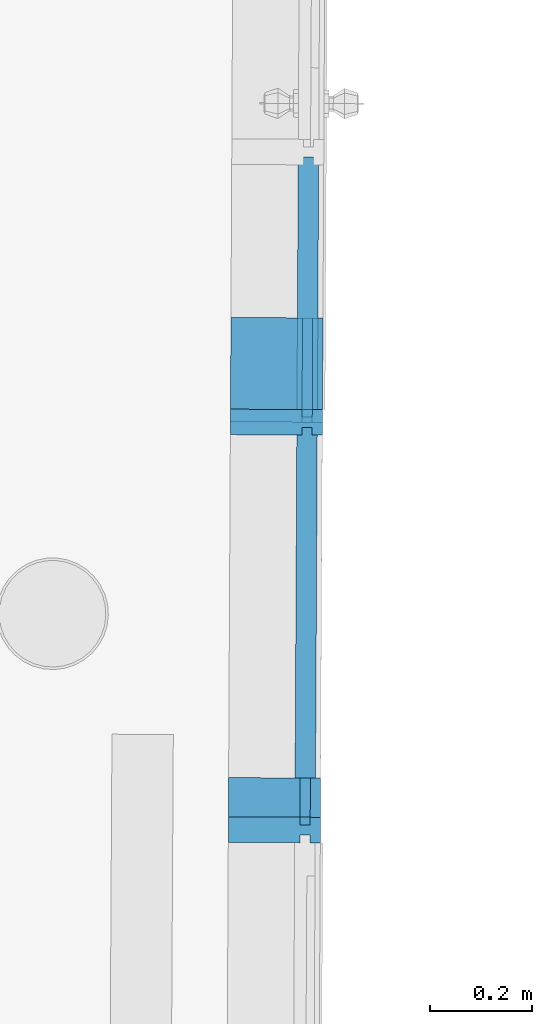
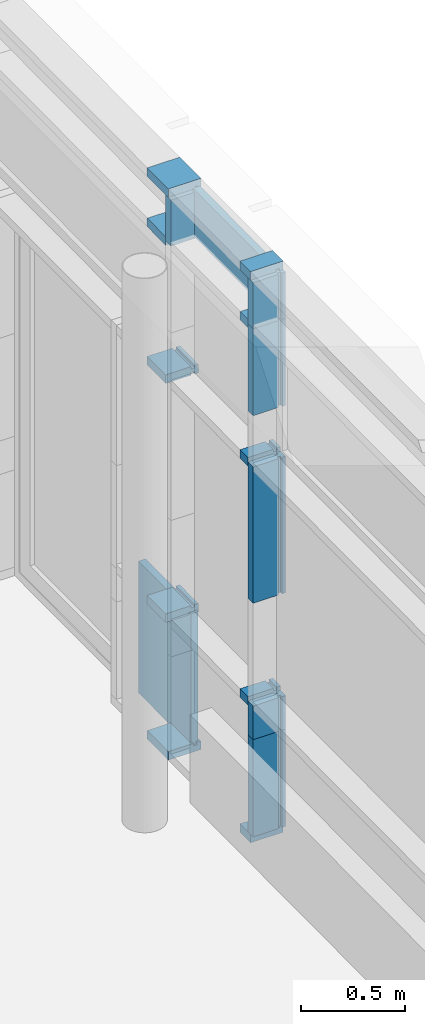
# One storey, part 179 of 196: 18 building element parts, 1 element without a shape of its own.
"""IFC2X3 building model written with IfcOpenShell, lengths in metres."""

from ifc_helpers import new_model, entity, si_unit, converted_unit, derived_unit, money_unit, direction, frame, origin_with_axes, place, context, subcontext, project, spatial, faceted_brep, material, type_object, element, aggregate, save


model = new_model("IFC2X3")

# Units and contexts
model_context = context("Model", 3, precision=1e-05, world=origin_with_axes(), true_north=direction((0.0, 1.0)))
body_context = subcontext(model_context, "Body", "Model", "MODEL_VIEW")
ifc_project = project(units=[si_unit("LENGTHUNIT", "METRE"), si_unit("AREAUNIT", "SQUARE_METRE"), si_unit("VOLUMEUNIT", "CUBIC_METRE"), converted_unit("PLANEANGLEUNIT", "DEGREE", entity("IfcPlaneAngleMeasure", 0.0174532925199), si_unit("PLANEANGLEUNIT", "RADIAN"), dimensions=[0, 0, 0, 0, 0, 0, 0]), money_unit("EUR"), converted_unit("TIMEUNIT", "Year", entity("IfcTimeMeasure", 31556926.0), si_unit("TIMEUNIT", "SECOND"), dimensions=[0, 0, 1, 0, 0, 0, 0]), si_unit("MASSUNIT", "GRAM", prefix="KILO"), si_unit("THERMODYNAMICTEMPERATUREUNIT", "DEGREE_CELSIUS"), si_unit("LUMINOUSINTENSITYUNIT", "LUMEN"), si_unit("ENERGYUNIT", "JOULE", prefix="MEGA"), derived_unit("THERMALCONDUCTANCEUNIT", [(si_unit("POWERUNIT", "WATT"), 1), (si_unit("LENGTHUNIT", "METRE"), -1), (si_unit("THERMODYNAMICTEMPERATUREUNIT", "KELVIN"), -1)]), derived_unit("SPECIFICHEATCAPACITYUNIT", [(si_unit("ENERGYUNIT", "JOULE"), 1), (si_unit("MASSUNIT", "GRAM", prefix="KILO"), -1), (si_unit("THERMODYNAMICTEMPERATUREUNIT", "KELVIN"), -1)]), derived_unit("MASSDENSITYUNIT", [(si_unit("MASSUNIT", "GRAM", prefix="KILO"), 1), (si_unit("VOLUMEUNIT", "CUBIC_METRE"), -1)])], contexts=[model_context])

# Site, building, storey
site_placement = place(None, origin_with_axes())
site = spatial("IfcSite", under=ifc_project, at=site_placement, Name="Gelände", CompositionType="ELEMENT")
building_placement = place(site_placement, origin_with_axes())
building = spatial("IfcBuilding", under=site, at=building_placement, Name="Gebäude", CompositionType="ELEMENT")
storey_placement = place(building_placement, frame((0.0, 0.0, -3.0), z_axis=(0.0, 0.0, 1.0), x_axis=(1.0, 0.0, 0.0)))
storey = spatial("IfcBuildingStorey", under=building, at=storey_placement, Name="KELLERGESCHOSS", CompositionType="ELEMENT", Elevation=-3.0)

# Proxy, building element parts
building_element_proxy_type = type_object("IfcBuildingElementProxyType", Name="Fassadentyp", PredefinedType="NOTDEFINED")
proxy_placement = place(storey_placement, frame((9.16160365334, 37.7476945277, 0.610000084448), z_axis=(0.0, 0.0, 1.0), x_axis=(1.0, 0.0, 0.0)))
proxy = element("IfcBuildingElementProxy", 1, at=proxy_placement, inside=storey, type_object=building_element_proxy_type, Name="Fassade-002")
ifc_material_1 = material(Name="45_Glas, Normalglas")
building_element_part_1_placement = place(proxy_placement, origin_with_axes())
building_element_part_1 = element("IfcBuildingElementPart", 2, at=building_element_part_1_placement, material=ifc_material_1, Name="45_Glas, Normalglas", context=body_context, shape_type="Brep", body=[
    faceted_brep([(-0.0103494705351, 1.90381784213, 3.31499994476), (-0.0138251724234, 1.21816353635, 3.31499994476), (0.0261743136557, 1.21796077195, 3.31499994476), (0.029650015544, 1.90361507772, 3.31499994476), (-0.0103494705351, 1.90381784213, 3.03949642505), (-0.0138251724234, 1.21816353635, 3.03949642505), (-0.0142902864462, 1.12641014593, 3.03949641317), (-0.0142902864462, 1.12641014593, 3.31499994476), (0.0257091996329, 1.12620738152, 3.31499994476), (0.0257091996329, 1.12620738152, 3.03949641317), (0.0261743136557, 1.21796077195, 3.03949642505), (0.029650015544, 1.90361507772, 3.03949642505)], [[[0, 1, 2, 3]], [[0, 4, 5, 6, 7, 1]], [[1, 7, 8, 2]], [[3, 2, 8, 9, 10, 11]], [[4, 0, 3, 11]], [[5, 4, 11, 10]], [[6, 5, 10, 9]], [[7, 6, 9, 8]]]),
])
building_element_part_2_placement = place(proxy_placement, origin_with_axes())
building_element_part_2 = element("IfcBuildingElementPart", 3, at=building_element_part_2_placement, material=ifc_material_1, Name="45_Glas, Normalglas", context=body_context, shape_type="Brep", body=[
    faceted_brep([(-0.00766993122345, 2.43241256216, 0.807169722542), (-0.00926297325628, 2.11815197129, 0.807169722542), (0.0307365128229, 2.11794920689, 0.807169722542), (0.0323295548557, 2.43220979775, 0.807169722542), (-0.00766993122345, 2.43241256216, 0.619999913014), (-0.00766993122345, 2.43241256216, 0.0349998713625), (-0.00926297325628, 2.11815197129, 0.0349998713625), (-0.0102480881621, 1.92381761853, 0.0349998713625), (-0.0102480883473, 1.923817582, 0.619999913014), (-0.010248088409, 1.92381756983, 0.807169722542), (0.0297513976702, 1.92361480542, 0.807169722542), (0.0297513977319, 1.9236148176, 0.619999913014), (0.0297513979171, 1.92361485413, 0.0349998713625), (0.0307365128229, 2.11794920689, 0.0349998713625), (0.0323295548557, 2.43220979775, 0.0349998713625), (0.0323295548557, 2.43220979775, 0.619999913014)], [[[0, 1, 2, 3]], [[0, 4, 5, 6, 7, 8, 9, 1]], [[1, 9, 10, 2]], [[3, 2, 10, 11, 12, 13, 14, 15]], [[4, 0, 3, 15]], [[5, 4, 15, 14]], [[6, 5, 14, 13]], [[7, 6, 13, 12]], [[8, 7, 12, 11]], [[9, 8, 11, 10]]]),
])
ifc_material_2 = material(Name="53_Metall, Aluminium")
building_element_part_3_placement = place(proxy_placement, origin_with_axes())
building_element_part_3 = element("IfcBuildingElementPart", 4, at=building_element_part_3_placement, material=ifc_material_2, Name="53_Metall, Aluminium", context=body_context, shape_type="Brep", body=[
    faceted_brep([(0.000736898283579, 2.11810128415, 0.0349998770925), (0.0207366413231, 2.11799990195, 0.0349998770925), (0.0207366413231, 2.11799990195, 0.0499998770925), (0.0407363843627, 2.11789851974, 0.0499998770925), (0.0407363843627, 2.11789851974, -1.22907543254e-07), (-0.139261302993, 2.11881095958, -1.22907543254e-07), (-0.139261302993, 2.11881095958, 0.0499998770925), (0.000736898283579, 2.11810128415, 0.0499998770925), (-0.000298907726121, 1.91376705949, 0.0349998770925), (0.0197008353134, 1.91366567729, 0.0349998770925), (0.0197008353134, 1.91366567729, 0.0499998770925), (0.039700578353, 1.91356429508, 0.0499998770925), (0.039700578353, 1.91356429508, -1.22907543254e-07), (-0.140297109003, 1.91447673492, -1.22907543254e-07), (-0.140297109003, 1.91447673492, 0.0499998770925), (-0.000298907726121, 1.91376705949, 0.0499998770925)], [[[0, 1, 2, 3, 4, 5, 6, 7]], [[1, 0, 8, 9]], [[10, 2, 1, 9]], [[2, 10, 11, 3]], [[12, 4, 3, 11]], [[13, 5, 4, 12]], [[14, 6, 5, 13]], [[15, 7, 6, 14]], [[0, 7, 15, 8]], [[8, 15, 14, 13, 12, 11, 10, 9]]]),
])
building_element_part_4_placement = place(proxy_placement, origin_with_axes())
building_element_part_4 = element("IfcBuildingElementPart", 5, at=building_element_part_4_placement, material=ifc_material_2, Name="53_Metall, Aluminium", context=body_context, shape_type="Brep", body=[
    faceted_brep([(0.000736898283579, 2.11810128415, 0.807169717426), (0.000736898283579, 2.11810128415, 0.792169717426), (-0.139261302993, 2.11881095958, 0.792169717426), (-0.139261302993, 2.11881095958, 0.842169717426), (0.000736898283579, 2.11810128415, 0.842169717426), (0.000736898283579, 2.11810128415, 0.827169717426), (0.0207366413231, 2.11799990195, 0.827169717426), (0.0207366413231, 2.11799990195, 0.842169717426), (0.0407363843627, 2.11789851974, 0.842169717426), (0.0407363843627, 2.11789851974, 0.792169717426), (0.0207366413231, 2.11799990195, 0.792169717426), (0.0207366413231, 2.11799990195, 0.807169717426), (-0.000172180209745, 1.93876669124, 0.807169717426), (-0.000172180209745, 1.93876669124, 0.792169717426), (-0.140170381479, 1.93947636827, 0.792169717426), (-0.140170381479, 1.93947636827, 0.842169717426), (-0.000172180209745, 1.93876669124, 0.842169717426), (-0.000172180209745, 1.93876669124, 0.827169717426), (0.0198275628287, 1.9386653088, 0.827169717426), (0.0198275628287, 1.9386653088, 0.842169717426), (0.0398273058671, 1.93856392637, 0.842169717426), (0.0398273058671, 1.93856392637, 0.792169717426), (0.0198275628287, 1.9386653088, 0.792169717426), (0.0198275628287, 1.9386653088, 0.807169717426)], [[[0, 1, 2, 3, 4, 5, 6, 7, 8, 9, 10, 11]], [[1, 0, 12, 13]], [[1, 13, 14, 2]], [[2, 14, 15, 3]], [[4, 3, 15, 16]], [[4, 16, 17, 5]], [[5, 17, 18, 6]], [[7, 6, 18, 19]], [[19, 20, 8, 7]], [[8, 20, 21, 9]], [[22, 10, 9, 21]], [[11, 10, 22, 23]], [[0, 11, 23, 12]], [[23, 22, 21, 20, 19, 18, 17, 16, 15, 14, 13, 12]]]),
])
building_element_part_5_placement = place(proxy_placement, origin_with_axes())
building_element_part_5 = element("IfcBuildingElementPart", 6, at=building_element_part_5_placement, material=ifc_material_2, Name="53_Metall, Aluminium", context=body_context, shape_type="Brep", body=[
    faceted_brep([(-0.0038253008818, 1.21811284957, 0.807169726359), (-0.0038253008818, 1.21811284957, 0.792169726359), (-0.143823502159, 1.21882252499, 0.792169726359), (-0.143823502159, 1.21882252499, 0.842169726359), (-0.0038253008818, 1.21811284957, 0.842169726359), (-0.0038253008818, 1.21811284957, 0.827169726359), (0.0161744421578, 1.21801146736, 0.827169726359), (0.0161744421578, 1.21801146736, 0.842169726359), (0.0361741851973, 1.21791008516, 0.842169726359), (0.0361741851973, 1.21791008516, 0.792169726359), (0.0161744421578, 1.21801146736, 0.792169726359), (0.0161744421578, 1.21801146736, 0.807169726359), (-0.00421437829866, 1.14135925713, 0.807169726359), (-0.00421437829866, 1.14135925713, 0.792169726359), (-0.144212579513, 1.14206894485, 0.792169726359), (-0.144212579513, 1.14206894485, 0.842169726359), (-0.00421437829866, 1.14135925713, 0.842169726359), (-0.00421437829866, 1.14135925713, 0.827169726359), (0.015785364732, 1.14125787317, 0.827169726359), (0.015785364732, 1.14125787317, 0.842169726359), (0.0357851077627, 1.14115648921, 0.842169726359), (0.0357851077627, 1.14115648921, 0.792169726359), (0.015785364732, 1.14125787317, 0.792169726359), (0.015785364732, 1.14125787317, 0.807169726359)], [[[0, 1, 2, 3, 4, 5, 6, 7, 8, 9, 10, 11]], [[1, 0, 12, 13]], [[1, 13, 14, 2]], [[2, 14, 15, 3]], [[4, 3, 15, 16]], [[4, 16, 17, 5]], [[5, 17, 18, 6]], [[7, 6, 18, 19]], [[19, 20, 8, 7]], [[8, 20, 21, 9]], [[22, 10, 9, 21]], [[11, 10, 22, 23]], [[0, 11, 23, 12]], [[23, 22, 21, 20, 19, 18, 17, 16, 15, 14, 13, 12]]]),
])
building_element_part_6_placement = place(proxy_placement, origin_with_axes())
building_element_part_6 = element("IfcBuildingElementPart", 7, at=building_element_part_6_placement, material=ifc_material_2, Name="53_Metall, Aluminium", context=body_context, shape_type="Brep", body=[
    faceted_brep([(-0.00429041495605, 1.12635944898, 0.817169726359), (-0.00421437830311, 1.14135925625, 0.817169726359), (-0.14421257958, 1.14206893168, 0.817169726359), (-0.14446603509, 1.09206957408, 0.817169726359), (-0.00446783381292, 1.09135989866, 0.817169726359), (-0.00439179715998, 1.10635970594, 0.817169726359), (0.0156079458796, 1.10625832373, 0.817169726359), (0.0155319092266, 1.09125851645, 0.817169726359), (0.0355316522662, 1.09115713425, 0.817169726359), (0.035785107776, 1.14115649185, 0.817169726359), (0.0157853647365, 1.14125787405, 0.817169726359), (0.0157093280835, 1.12625806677, 0.817169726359), (-0.00429041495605, 1.12635944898, 0.619999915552), (-0.00421437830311, 1.14135925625, 0.619999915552), (-0.14421257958, 1.14206893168, 0.619999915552), (-0.14446603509, 1.09206957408, 0.619999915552), (-0.00446783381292, 1.09135989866, 0.619999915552), (-0.00439179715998, 1.10635970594, 0.619999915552), (0.0156079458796, 1.10625832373, 0.619999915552), (0.0155319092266, 1.09125851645, 0.619999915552), (0.0355316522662, 1.09115713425, 0.619999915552), (0.035785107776, 1.14115649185, 0.619999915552), (0.0157853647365, 1.14125787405, 0.619999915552), (0.0157093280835, 1.12625806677, 0.619999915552)], [[[0, 1, 2, 3, 4, 5, 6, 7, 8, 9, 10, 11]], [[1, 0, 12, 13]], [[1, 13, 14, 2]], [[3, 2, 14, 15]], [[4, 3, 15, 16]], [[4, 16, 17, 5]], [[5, 17, 18, 6]], [[7, 6, 18, 19]], [[19, 20, 8, 7]], [[9, 8, 20, 21]], [[22, 10, 9, 21]], [[11, 10, 22, 23]], [[0, 11, 23, 12]], [[23, 22, 21, 20, 19, 18, 17, 16, 15, 14, 13, 12]]]),
])
building_element_part_7_placement = place(proxy_placement, origin_with_axes())
building_element_part_7 = element("IfcBuildingElementPart", 8, at=building_element_part_7_placement, material=ifc_material_2, Name="53_Metall, Aluminium", context=body_context, shape_type="Brep", body=[
    faceted_brep([(-0.00382530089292, 1.21811284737, 3.31499994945), (-0.00382530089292, 1.21811284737, 3.29999994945), (-0.14382350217, 1.2188225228, 3.29999994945), (-0.14382350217, 1.2188225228, 3.34999994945), (0.0361741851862, 1.21791008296, 3.34999994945), (0.0361741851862, 1.21791008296, 3.29999994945), (0.0161744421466, 1.21801146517, 3.29999994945), (0.0161744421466, 1.21801146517, 3.31499994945), (-0.00434110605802, 1.11635957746, 3.31499994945), (-0.00434110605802, 1.11635957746, 3.29999994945), (-0.144339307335, 1.11706925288, 3.29999994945), (-0.144339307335, 1.11706925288, 3.34999994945), (0.0356583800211, 1.11615681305, 3.34999994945), (0.0356583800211, 1.11615681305, 3.29999994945), (0.0156586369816, 1.11625819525, 3.29999994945), (0.0156586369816, 1.11625819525, 3.31499994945)], [[[0, 1, 2, 3, 4, 5, 6, 7]], [[0, 8, 9, 1]], [[9, 10, 2, 1]], [[10, 11, 3, 2]], [[11, 12, 4, 3]], [[12, 13, 5, 4]], [[6, 5, 13, 14]], [[14, 15, 7, 6]], [[7, 15, 8, 0]], [[8, 15, 14, 13, 12, 11, 10, 9]]]),
])
building_element_part_8_placement = place(proxy_placement, origin_with_axes())
building_element_part_8 = element("IfcBuildingElementPart", 9, at=building_element_part_8_placement, material=ifc_material_2, Name="53_Metall, Aluminium", context=body_context, shape_type="Brep", body=[
    faceted_brep([(-0.00429041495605, 1.12635944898, 3.29999994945), (-0.00421437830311, 1.14135925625, 3.29999994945), (-0.14421257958, 1.14206893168, 3.29999994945), (-0.14446603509, 1.09206957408, 3.29999994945), (-0.00446783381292, 1.09135989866, 3.29999994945), (-0.00439179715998, 1.10635970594, 3.29999994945), (0.0156079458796, 1.10625832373, 3.29999994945), (0.0155319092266, 1.09125851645, 3.29999994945), (0.0355316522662, 1.09115713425, 3.29999994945), (0.035785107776, 1.14115649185, 3.29999994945), (0.0157853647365, 1.14125787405, 3.29999994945), (0.0157093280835, 1.12625806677, 3.29999994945), (-0.00429041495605, 1.12635944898, 3.02949640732), (-0.00421437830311, 1.14135925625, 3.02949640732), (-0.14421257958, 1.14206893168, 3.02949640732), (-0.14446603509, 1.09206957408, 3.02949640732), (-0.00446783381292, 1.09135989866, 3.02949640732), (-0.00439179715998, 1.10635970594, 3.02949640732), (0.0156079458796, 1.10625832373, 3.02949640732), (0.0155319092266, 1.09125851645, 3.02949640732), (0.0355316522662, 1.09115713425, 3.02949640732), (0.035785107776, 1.14115649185, 3.02949640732), (0.0157853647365, 1.14125787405, 3.02949640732), (0.0157093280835, 1.12625806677, 3.02949640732)], [[[0, 1, 2, 3, 4, 5, 6, 7, 8, 9, 10, 11]], [[1, 0, 12, 13]], [[1, 13, 14, 2]], [[3, 2, 14, 15]], [[4, 3, 15, 16]], [[4, 16, 17, 5]], [[5, 17, 18, 6]], [[7, 6, 18, 19]], [[19, 20, 8, 7]], [[9, 8, 20, 21]], [[22, 10, 9, 21]], [[11, 10, 22, 23]], [[0, 11, 23, 12]], [[23, 22, 21, 20, 19, 18, 17, 16, 15, 14, 13, 12]]]),
])
building_element_part_9_placement = place(proxy_placement, origin_with_axes())
building_element_part_9 = element("IfcBuildingElementPart", 10, at=building_element_part_9_placement, material=ifc_material_2, Name="53_Metall, Aluminium", context=body_context, shape_type="Brep", body=[
    faceted_brep([(0.000736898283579, 2.11810128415, 3.31499994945), (0.000736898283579, 2.11810128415, 3.29999994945), (-0.139261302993, 2.11881095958, 3.29999994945), (-0.139261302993, 2.11881095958, 3.34999994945), (0.0407363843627, 2.11789851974, 3.34999994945), (0.0407363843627, 2.11789851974, 3.29999994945), (0.0207366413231, 2.11799990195, 3.29999994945), (0.0207366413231, 2.11799990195, 3.31499994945), (-0.000298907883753, 1.91376702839, 3.31499994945), (-0.000298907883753, 1.91376702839, 3.29999994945), (-0.140297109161, 1.91447670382, 3.29999994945), (-0.140297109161, 1.91447670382, 3.34999994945), (0.0397005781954, 1.91356426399, 3.34999994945), (0.0397005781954, 1.91356426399, 3.29999994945), (0.0197008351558, 1.91366564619, 3.29999994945), (0.0197008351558, 1.91366564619, 3.31499994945)], [[[0, 1, 2, 3, 4, 5, 6, 7]], [[0, 8, 9, 1]], [[9, 10, 2, 1]], [[10, 11, 3, 2]], [[11, 12, 4, 3]], [[12, 13, 5, 4]], [[6, 5, 13, 14]], [[14, 15, 7, 6]], [[7, 15, 8, 0]], [[8, 15, 14, 13, 12, 11, 10, 9]]]),
])
building_element_part_10_placement = place(proxy_placement, origin_with_axes())
building_element_part_10 = element("IfcBuildingElementPart", 11, at=building_element_part_10_placement, material=ifc_material_2, Name="53_Metall, Aluminium", context=body_context, shape_type="Brep", body=[
    faceted_brep([(-0.00382530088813, 1.21811284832, 0.0349998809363), (0.0161744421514, 1.21801146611, 0.0349998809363), (0.0161744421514, 1.21801146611, 0.0499998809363), (0.036174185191, 1.21791008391, 0.0499998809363), (0.036174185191, 1.21791008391, -1.1906372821e-07), (-0.143823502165, 1.21882252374, -1.1906372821e-07), (-0.143823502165, 1.21882252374, 0.0499998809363), (-0.00382530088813, 1.21811284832, 0.0499998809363), (-0.00434110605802, 1.11635957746, 0.0349998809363), (0.0156586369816, 1.11625819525, 0.0349998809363), (0.0156586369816, 1.11625819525, 0.0499998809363), (0.0356583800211, 1.11615681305, 0.0499998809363), (0.0356583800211, 1.11615681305, -1.1906372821e-07), (-0.144339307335, 1.11706925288, -1.1906372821e-07), (-0.144339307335, 1.11706925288, 0.0499998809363), (-0.00434110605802, 1.11635957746, 0.0499998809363)], [[[0, 1, 2, 3, 4, 5, 6, 7]], [[1, 0, 8, 9]], [[10, 2, 1, 9]], [[2, 10, 11, 3]], [[12, 4, 3, 11]], [[13, 5, 4, 12]], [[14, 6, 5, 13]], [[15, 7, 6, 14]], [[0, 7, 15, 8]], [[8, 15, 14, 13, 12, 11, 10, 9]]]),
])
building_element_part_11_placement = place(proxy_placement, origin_with_axes())
building_element_part_11 = element("IfcBuildingElementPart", 12, at=building_element_part_11_placement, material=ifc_material_2, Name="53_Metall, Aluminium", context=body_context, shape_type="Brep", body=[
    faceted_brep([(-0.00429041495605, 1.12635944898, 0.619999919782), (-0.00421437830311, 1.14135925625, 0.619999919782), (-0.14421257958, 1.14206893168, 0.619999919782), (-0.14446603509, 1.09206957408, 0.619999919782), (-0.00446783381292, 1.09135989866, 0.619999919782), (-0.00439179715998, 1.10635970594, 0.619999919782), (0.0156079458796, 1.10625832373, 0.619999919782), (0.0155319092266, 1.09125851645, 0.619999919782), (0.0355316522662, 1.09115713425, 0.619999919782), (0.035785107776, 1.14115649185, 0.619999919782), (0.0157853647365, 1.14125787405, 0.619999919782), (0.0157093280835, 1.12625806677, 0.619999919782), (-0.00429041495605, 1.12635944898, 0.0499998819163), (-0.00421437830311, 1.14135925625, 0.0499998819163), (-0.14421257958, 1.14206893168, 0.0499998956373), (-0.14446603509, 1.09206957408, 0.0499998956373), (-0.00446783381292, 1.09135989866, 0.0499998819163), (-0.00439179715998, 1.10635970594, 0.0499998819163), (0.0156079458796, 1.10625832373, 0.0499998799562), (0.0155319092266, 1.09125851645, 0.0499998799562), (0.0355316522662, 1.09115713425, 0.0499998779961), (0.035785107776, 1.14115649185, 0.0499998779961), (0.0157853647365, 1.14125787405, 0.0499998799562), (0.0157093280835, 1.12625806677, 0.0499998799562)], [[[0, 1, 2, 3, 4, 5, 6, 7, 8, 9, 10, 11]], [[1, 0, 12, 13]], [[1, 13, 14, 2]], [[2, 14, 15, 3]], [[4, 3, 15, 16]], [[4, 16, 17, 5]], [[5, 17, 18, 6]], [[7, 6, 18, 19]], [[19, 20, 8, 7]], [[8, 20, 21, 9]], [[22, 10, 9, 21]], [[11, 10, 22, 23]], [[0, 11, 23, 12]], [[23, 22, 21, 20, 19, 18, 17, 16, 15, 14, 13, 12]]]),
])
building_element_part_12_placement = place(proxy_placement, origin_with_axes())
building_element_part_12 = element("IfcBuildingElementPart", 13, at=building_element_part_12_placement, material=ifc_material_2, Name="53_Metall, Aluminium", context=body_context, shape_type="Brep", body=[
    faceted_brep([(-0.00429041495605, 1.12635944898, 3.02949640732), (-0.00421437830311, 1.14135925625, 3.02949640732), (-0.14421257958, 1.14206893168, 3.02949640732), (-0.14446603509, 1.09206957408, 3.02949640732), (-0.00446783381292, 1.09135989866, 3.02949640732), (-0.00439179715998, 1.10635970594, 3.02949640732), (0.0156079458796, 1.10625832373, 3.02949640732), (0.0155319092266, 1.09125851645, 3.02949640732), (0.0355316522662, 1.09115713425, 3.02949640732), (0.035785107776, 1.14115649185, 3.02949640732), (0.0157853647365, 1.14125787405, 3.02949640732), (0.0157093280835, 1.12625806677, 3.02949640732), (-0.00429041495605, 1.12635944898, 2.51999991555), (-0.00421437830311, 1.14135925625, 2.51999991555), (-0.14421257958, 1.14206893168, 2.51999991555), (-0.14446603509, 1.09206957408, 2.51999991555), (-0.00446783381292, 1.09135989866, 2.51999991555), (-0.00439179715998, 1.10635970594, 2.51999991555), (0.0156079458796, 1.10625832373, 2.51999991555), (0.0155319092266, 1.09125851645, 2.51999991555), (0.0355316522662, 1.09115713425, 2.51999991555), (0.035785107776, 1.14115649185, 2.51999991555), (0.0157853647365, 1.14125787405, 2.51999991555), (0.0157093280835, 1.12625806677, 2.51999991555)], [[[0, 1, 2, 3, 4, 5, 6, 7, 8, 9, 10, 11]], [[1, 0, 12, 13]], [[1, 13, 14, 2]], [[3, 2, 14, 15]], [[4, 3, 15, 16]], [[4, 16, 17, 5]], [[5, 17, 18, 6]], [[7, 6, 18, 19]], [[19, 20, 8, 7]], [[9, 8, 20, 21]], [[22, 10, 9, 21]], [[11, 10, 22, 23]], [[0, 11, 23, 12]], [[23, 22, 21, 20, 19, 18, 17, 16, 15, 14, 13, 12]]]),
])
building_element_part_13_placement = place(proxy_placement, origin_with_axes())
building_element_part_13 = element("IfcBuildingElementPart", 14, at=building_element_part_13_placement, material=ifc_material_2, Name="53_Metall, Aluminium", context=body_context, shape_type="Brep", body=[
    faceted_brep([(0.000736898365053, 2.11810130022, 3.01949642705), (0.000736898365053, 2.11810130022, 3.00449642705), (-0.139261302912, 2.11881097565, 3.00449642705), (-0.139261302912, 2.11881097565, 3.05449642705), (0.000736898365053, 2.11810130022, 3.05449642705), (0.000736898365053, 2.11810130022, 3.03949642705), (0.0207366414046, 2.11799991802, 3.03949642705), (0.0207366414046, 2.11799991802, 3.05449642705), (0.0407363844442, 2.11789853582, 3.05449642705), (0.0407363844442, 2.11789853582, 3.00449642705), (0.0207366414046, 2.11799991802, 3.00449642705), (0.0207366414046, 2.11799991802, 3.01949642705), (-0.000172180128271, 1.93876670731, 3.01949642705), (-0.000172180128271, 1.93876670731, 3.00449642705), (-0.140170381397, 1.93947638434, 3.00449642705), (-0.140170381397, 1.93947638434, 3.05449642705), (-0.000172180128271, 1.93876670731, 3.05449642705), (-0.000172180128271, 1.93876670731, 3.03949642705), (0.0198275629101, 1.93866532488, 3.03949642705), (0.0198275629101, 1.93866532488, 3.05449642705), (0.0398273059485, 1.93856394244, 3.05449642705), (0.0398273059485, 1.93856394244, 3.00449642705), (0.0198275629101, 1.93866532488, 3.00449642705), (0.0198275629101, 1.93866532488, 3.01949642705)], [[[0, 1, 2, 3, 4, 5, 6, 7, 8, 9, 10, 11]], [[1, 0, 12, 13]], [[1, 13, 14, 2]], [[2, 14, 15, 3]], [[4, 3, 15, 16]], [[4, 16, 17, 5]], [[5, 17, 18, 6]], [[7, 6, 18, 19]], [[19, 20, 8, 7]], [[8, 20, 21, 9]], [[22, 10, 9, 21]], [[11, 10, 22, 23]], [[0, 11, 23, 12]], [[23, 22, 21, 20, 19, 18, 17, 16, 15, 14, 13, 12]]]),
])
building_element_part_14_placement = place(proxy_placement, origin_with_axes())
building_element_part_14 = element("IfcBuildingElementPart", 15, at=building_element_part_14_placement, material=ifc_material_2, Name="53_Metall, Aluminium", context=body_context, shape_type="Brep", body=[
    faceted_brep([(-0.0038253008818, 1.21811284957, 3.01949640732), (-0.0038253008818, 1.21811284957, 3.00449640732), (-0.143823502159, 1.21882252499, 3.00449640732), (-0.143823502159, 1.21882252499, 3.05449640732), (-0.0038253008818, 1.21811284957, 3.05449640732), (-0.0038253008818, 1.21811284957, 3.03949640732), (0.0161744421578, 1.21801146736, 3.03949640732), (0.0161744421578, 1.21801146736, 3.05449640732), (0.0361741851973, 1.21791008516, 3.05449640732), (0.0361741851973, 1.21791008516, 3.00449640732), (0.0161744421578, 1.21801146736, 3.00449640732), (0.0161744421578, 1.21801146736, 3.01949640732), (-0.00421437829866, 1.14135925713, 3.01949640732), (-0.00421437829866, 1.14135925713, 3.00449640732), (-0.144212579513, 1.14206894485, 3.00449640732), (-0.144212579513, 1.14206894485, 3.05449640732), (-0.00421437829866, 1.14135925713, 3.05449640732), (-0.00421437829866, 1.14135925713, 3.03949640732), (0.015785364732, 1.14125787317, 3.03949640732), (0.015785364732, 1.14125787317, 3.05449640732), (0.0357851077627, 1.14115648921, 3.05449640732), (0.0357851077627, 1.14115648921, 3.00449640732), (0.015785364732, 1.14125787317, 3.00449640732), (0.015785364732, 1.14125787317, 3.01949640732)], [[[0, 1, 2, 3, 4, 5, 6, 7, 8, 9, 10, 11]], [[1, 0, 12, 13]], [[1, 13, 14, 2]], [[2, 14, 15, 3]], [[4, 3, 15, 16]], [[4, 16, 17, 5]], [[5, 17, 18, 6]], [[7, 6, 18, 19]], [[19, 20, 8, 7]], [[8, 20, 21, 9]], [[22, 10, 9, 21]], [[11, 10, 22, 23]], [[0, 11, 23, 12]], [[23, 22, 21, 20, 19, 18, 17, 16, 15, 14, 13, 12]]]),
])
building_element_part_15_placement = place(proxy_placement, origin_with_axes())
building_element_part_15 = element("IfcBuildingElementPart", 16, at=building_element_part_15_placement, material=ifc_material_2, Name="53_Metall, Aluminium", context=body_context, shape_type="Brep", body=[
    faceted_brep([(-0.00429041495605, 1.12635944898, 2.21916309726), (-0.00421437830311, 1.14135925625, 2.21916309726), (-0.14421257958, 1.14206893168, 2.21916309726), (-0.14446603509, 1.09206957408, 2.21916309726), (-0.00446783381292, 1.09135989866, 2.21916309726), (-0.00439179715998, 1.10635970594, 2.21916309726), (0.0156079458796, 1.10625832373, 2.21916309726), (0.0155319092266, 1.09125851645, 2.21916309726), (0.0355316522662, 1.09115713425, 2.21916309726), (0.035785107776, 1.14115649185, 2.21916309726), (0.0157853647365, 1.14125787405, 2.21916309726), (0.0157093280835, 1.12625806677, 2.21916309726), (-0.00429041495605, 1.12635944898, 1.41999991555), (-0.00421437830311, 1.14135925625, 1.41999991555), (-0.14421257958, 1.14206893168, 1.41999991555), (-0.14446603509, 1.09206957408, 1.41999991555), (-0.00446783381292, 1.09135989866, 1.41999991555), (-0.00439179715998, 1.10635970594, 1.41999991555), (0.0156079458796, 1.10625832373, 1.41999991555), (0.0155319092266, 1.09125851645, 1.41999991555), (0.0355316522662, 1.09115713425, 1.41999991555), (0.035785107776, 1.14115649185, 1.41999991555), (0.0157853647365, 1.14125787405, 1.41999991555), (0.0157093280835, 1.12625806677, 1.41999991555)], [[[0, 1, 2, 3, 4, 5, 6, 7, 8, 9, 10, 11]], [[1, 0, 12, 13]], [[1, 13, 14, 2]], [[3, 2, 14, 15]], [[4, 3, 15, 16]], [[4, 16, 17, 5]], [[5, 17, 18, 6]], [[7, 6, 18, 19]], [[19, 20, 8, 7]], [[9, 8, 20, 21]], [[22, 10, 9, 21]], [[11, 10, 22, 23]], [[0, 11, 23, 12]], [[23, 22, 21, 20, 19, 18, 17, 16, 15, 14, 13, 12]]]),
])
building_element_part_16_placement = place(proxy_placement, origin_with_axes())
building_element_part_16 = element("IfcBuildingElementPart", 17, at=building_element_part_16_placement, material=ifc_material_2, Name="53_Metall, Aluminium", context=body_context, shape_type="Brep", body=[
    faceted_brep([(0.000736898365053, 2.11810130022, 2.20916310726), (0.000736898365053, 2.11810130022, 2.19416310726), (-0.139261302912, 2.11881097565, 2.19416310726), (-0.139261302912, 2.11881097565, 2.24416310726), (0.000736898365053, 2.11810130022, 2.24416310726), (0.000736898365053, 2.11810130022, 2.22916310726), (0.0207366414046, 2.11799991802, 2.22916310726), (0.0207366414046, 2.11799991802, 2.24416310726), (0.0407363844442, 2.11789853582, 2.24416310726), (0.0407363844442, 2.11789853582, 2.19416310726), (0.0207366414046, 2.11799991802, 2.19416310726), (0.0207366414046, 2.11799991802, 2.20916310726), (-0.000172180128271, 1.93876670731, 2.20916310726), (-0.000172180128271, 1.93876670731, 2.19416310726), (-0.140170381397, 1.93947638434, 2.19416310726), (-0.140170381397, 1.93947638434, 2.24416310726), (-0.000172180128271, 1.93876670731, 2.24416310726), (-0.000172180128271, 1.93876670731, 2.22916310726), (0.0198275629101, 1.93866532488, 2.22916310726), (0.0198275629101, 1.93866532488, 2.24416310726), (0.0398273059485, 1.93856394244, 2.24416310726), (0.0398273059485, 1.93856394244, 2.19416310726), (0.0198275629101, 1.93866532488, 2.19416310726), (0.0198275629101, 1.93866532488, 2.20916310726)], [[[0, 1, 2, 3, 4, 5, 6, 7, 8, 9, 10, 11]], [[1, 0, 12, 13]], [[1, 13, 14, 2]], [[2, 14, 15, 3]], [[4, 3, 15, 16]], [[4, 16, 17, 5]], [[5, 17, 18, 6]], [[7, 6, 18, 19]], [[19, 20, 8, 7]], [[8, 20, 21, 9]], [[22, 10, 9, 21]], [[11, 10, 22, 23]], [[0, 11, 23, 12]], [[23, 22, 21, 20, 19, 18, 17, 16, 15, 14, 13, 12]]]),
])
building_element_part_17_placement = place(proxy_placement, origin_with_axes())
building_element_part_17 = element("IfcBuildingElementPart", 18, at=building_element_part_17_placement, material=ifc_material_2, Name="53_Metall, Aluminium", context=body_context, shape_type="Brep", body=[
    faceted_brep([(-0.0038253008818, 1.21811284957, 2.20916309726), (-0.0038253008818, 1.21811284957, 2.19416309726), (-0.143823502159, 1.21882252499, 2.19416309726), (-0.143823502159, 1.21882252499, 2.24416309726), (-0.0038253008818, 1.21811284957, 2.24416309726), (-0.0038253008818, 1.21811284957, 2.22916309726), (0.0161744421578, 1.21801146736, 2.22916309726), (0.0161744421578, 1.21801146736, 2.24416309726), (0.0361741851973, 1.21791008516, 2.24416309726), (0.0361741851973, 1.21791008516, 2.19416309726), (0.0161744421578, 1.21801146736, 2.19416309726), (0.0161744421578, 1.21801146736, 2.20916309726), (-0.00421437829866, 1.14135925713, 2.20916309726), (-0.00421437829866, 1.14135925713, 2.19416309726), (-0.144212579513, 1.14206894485, 2.19416309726), (-0.144212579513, 1.14206894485, 2.24416309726), (-0.00421437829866, 1.14135925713, 2.24416309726), (-0.00421437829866, 1.14135925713, 2.22916309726), (0.015785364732, 1.14125787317, 2.22916309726), (0.015785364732, 1.14125787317, 2.24416309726), (0.0357851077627, 1.14115648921, 2.24416309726), (0.0357851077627, 1.14115648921, 2.19416309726), (0.015785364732, 1.14125787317, 2.19416309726), (0.015785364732, 1.14125787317, 2.20916309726)], [[[0, 1, 2, 3, 4, 5, 6, 7, 8, 9, 10, 11]], [[1, 0, 12, 13]], [[1, 13, 14, 2]], [[2, 14, 15, 3]], [[4, 3, 15, 16]], [[4, 16, 17, 5]], [[5, 17, 18, 6]], [[7, 6, 18, 19]], [[19, 20, 8, 7]], [[8, 20, 21, 9]], [[22, 10, 9, 21]], [[11, 10, 22, 23]], [[0, 11, 23, 12]], [[23, 22, 21, 20, 19, 18, 17, 16, 15, 14, 13, 12]]]),
])
building_element_part_18_placement = place(proxy_placement, origin_with_axes())
building_element_part_18 = element("IfcBuildingElementPart", 19, at=building_element_part_18_placement, material=ifc_material_2, Name="53_Metall, Aluminium", context=body_context, shape_type="Brep", body=[
    faceted_brep([(-0.000248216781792, 1.92376689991, 3.29999996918), (-0.000172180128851, 1.93876670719, 3.29999996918), (-0.140170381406, 1.93947638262, 3.29999996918), (-0.140423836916, 1.88947702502, 3.29999996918), (-0.000425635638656, 1.8887673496, 3.29999996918), (-0.000349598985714, 1.90376715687, 3.29999996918), (0.0196501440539, 1.90366577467, 3.29999996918), (0.0195741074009, 1.88866596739, 3.29999996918), (0.0395738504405, 1.88856458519, 3.29999996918), (0.0398273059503, 1.93856394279, 3.29999996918), (0.0198275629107, 1.93866532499, 3.29999996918), (0.0197515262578, 1.92366551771, 3.29999996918), (-0.000248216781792, 1.92376689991, 3.02949642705), (-0.000172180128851, 1.93876670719, 3.02949642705), (-0.140170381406, 1.93947638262, 3.02949642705), (-0.140423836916, 1.88947702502, 3.02949642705), (-0.000425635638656, 1.8887673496, 3.02949642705), (-0.000349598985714, 1.90376715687, 3.02949642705), (0.0196501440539, 1.90366577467, 3.02949642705), (0.0195741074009, 1.88866596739, 3.02949642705), (0.0395738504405, 1.88856458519, 3.02949642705), (0.0398273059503, 1.93856394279, 3.02949642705), (0.0198275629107, 1.93866532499, 3.02949642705), (0.0197515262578, 1.92366551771, 3.02949642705)], [[[0, 1, 2, 3, 4, 5, 6, 7, 8, 9, 10, 11]], [[1, 0, 12, 13]], [[1, 13, 14, 2]], [[3, 2, 14, 15]], [[4, 3, 15, 16]], [[4, 16, 17, 5]], [[5, 17, 18, 6]], [[7, 6, 18, 19]], [[19, 20, 8, 7]], [[9, 8, 20, 21]], [[22, 10, 9, 21]], [[11, 10, 22, 23]], [[0, 11, 23, 12]], [[23, 22, 21, 20, 19, 18, 17, 16, 15, 14, 13, 12]]]),
])
aggregate(proxy, [building_element_part_1, building_element_part_2, building_element_part_3, building_element_part_4, building_element_part_5, building_element_part_6, building_element_part_7, building_element_part_8, building_element_part_9, building_element_part_10, building_element_part_11, building_element_part_12, building_element_part_13, building_element_part_14, building_element_part_15, building_element_part_16, building_element_part_17, building_element_part_18])

save(model, "model.ifc")
